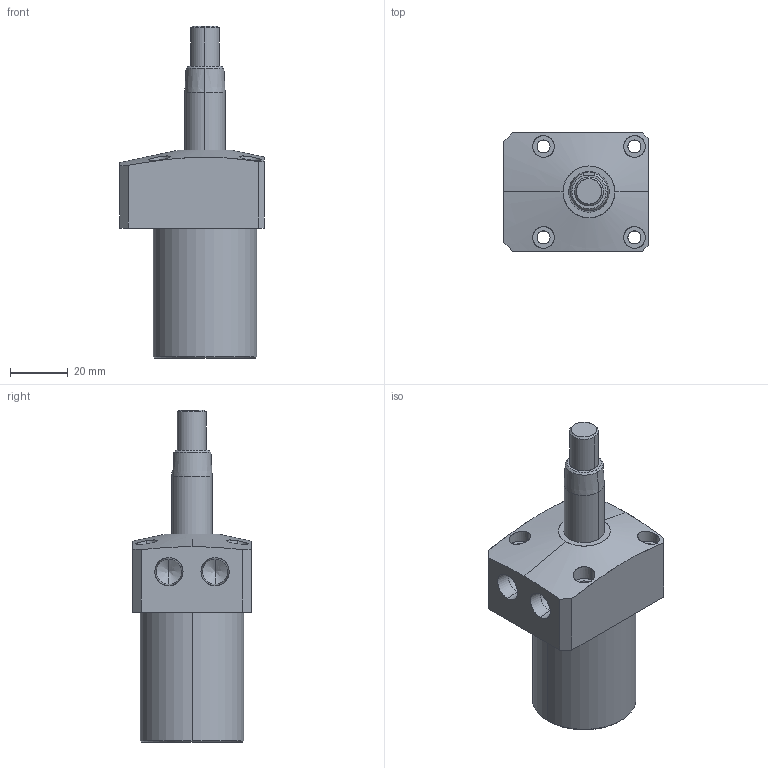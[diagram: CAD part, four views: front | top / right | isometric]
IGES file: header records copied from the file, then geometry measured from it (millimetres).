
Start section: SolidWorks IGES file using analytic representation for surfaces
Global section: file name: E:\IGS-PART-DRG\SC02-362-L.IGS; native system: SolidWorks 2019; preprocessor: SolidWorks 2019; author: SSVT; date: 210821.195215; units: millimetre
Bounding box: 50 x 41 x 115 mm (x, y, z)
Surface area: 21749.2 mm2 (no closed solid volume)
Topology: 0 solids, 0 shells, 75 faces, 1488 edges, 1484 vertices
Faces by surface type: revolution 50, bspline 25
